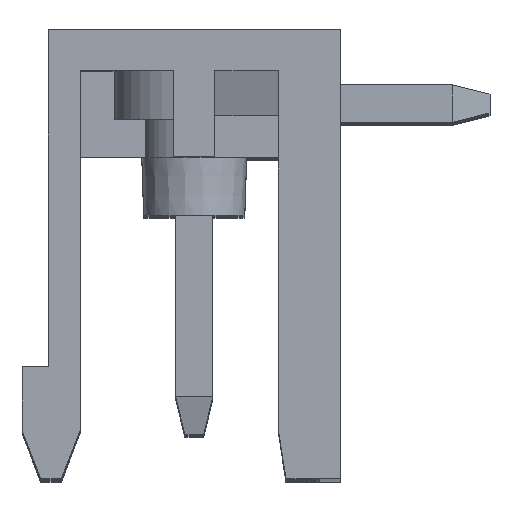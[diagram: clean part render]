
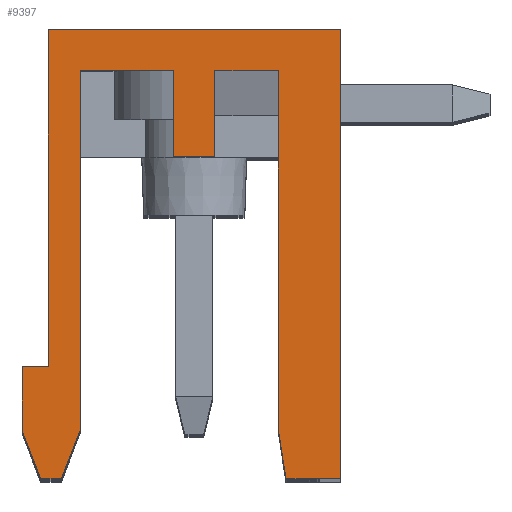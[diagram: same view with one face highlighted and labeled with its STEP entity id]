
A CAD part, top view. The second image highlights one B-rep face of the part: STEP entity #9397.
In plain terms, the highlighted planar face has unit normal (0, 0, 1).
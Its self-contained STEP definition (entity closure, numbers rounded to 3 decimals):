
#44 = EDGE_CURVE ( 'NONE', #20407, #19337, #2630, .T. ) ;
#166 = DIRECTION ( 'NONE',  ( 0., -1., 0. ) ) ;
#771 = DIRECTION ( 'NONE',  ( 1., 0., 0. ) ) ;
#974 = DIRECTION ( 'NONE',  ( 0.152, -0.988, 0. ) ) ;
#1130 = LINE ( 'NONE', #8802, #10423 ) ;
#1148 = VECTOR ( 'NONE', #12874, 1000. ) ;
#1167 = VERTEX_POINT ( 'NONE', #16137 ) ;
#1633 = LINE ( 'NONE', #22587, #1148 ) ;
#1900 = VERTEX_POINT ( 'NONE', #25020 ) ;
#2227 = ORIENTED_EDGE ( 'NONE', *, *, #22700, .T. ) ;
#2578 = CARTESIAN_POINT ( 'NONE',  ( -4.1, 0., 50.8 ) ) ;
#2630 = LINE ( 'NONE', #19866, #19105 ) ;
#2645 = VECTOR ( 'NONE', #23921, 1000. ) ;
#2707 = VERTEX_POINT ( 'NONE', #12960 ) ;
#3110 = VERTEX_POINT ( 'NONE', #11990 ) ;
#3185 = VERTEX_POINT ( 'NONE', #13661 ) ;
#3357 = EDGE_CURVE ( 'NONE', #9190, #3110, #24485, .T. ) ;
#3360 = LINE ( 'NONE', #24665, #21652 ) ;
#3409 = CARTESIAN_POINT ( 'NONE',  ( -0.55, 10.9, 50.8 ) ) ;
#3526 = ORIENTED_EDGE ( 'NONE', *, *, #5965, .T. ) ;
#3542 = CARTESIAN_POINT ( 'NONE',  ( -0.55, 8.6, 50.8 ) ) ;
#3710 = CARTESIAN_POINT ( 'NONE',  ( 3.9, 12., 50.8 ) ) ;
#3715 = EDGE_LOOP ( 'NONE', ( #23570, #10519, #18700, #18980, #17585, #23997, #5293, #15336, #21354, #7024, #2227, #14083, #10372, #3526, #8929, #10436, #21485 ) ) ;
#3719 = EDGE_CURVE ( 'NONE', #3185, #9190, #20252, .T. ) ;
#3835 = EDGE_CURVE ( 'NONE', #13893, #9394, #15136, .T. ) ;
#4110 = VECTOR ( 'NONE', #12875, 1000. ) ;
#4214 = VECTOR ( 'NONE', #13578, 1000. ) ;
#4631 = PLANE ( 'NONE',  #6697 ) ;
#4753 = DIRECTION ( 'NONE',  ( 1., 0., 0. ) ) ;
#5293 = ORIENTED_EDGE ( 'NONE', *, *, #15634, .T. ) ;
#5306 = CARTESIAN_POINT ( 'NONE',  ( -3.05, 10.9, 50.8 ) ) ;
#5332 = VECTOR ( 'NONE', #974, 1000. ) ;
#5660 = VERTEX_POINT ( 'NONE', #3542 ) ;
#5926 = LINE ( 'NONE', #17784, #4214 ) ;
#5965 = EDGE_CURVE ( 'NONE', #2707, #1167, #12316, .T. ) ;
#6196 = VERTEX_POINT ( 'NONE', #19331 ) ;
#6230 = EDGE_CURVE ( 'NONE', #23215, #5660, #5926, .T. ) ;
#6342 = EDGE_CURVE ( 'NONE', #21531, #1900, #22127, .T. ) ;
#6697 = AXIS2_PLACEMENT_3D ( 'NONE', #12395, #22110, #4753 ) ;
#6794 = CARTESIAN_POINT ( 'NONE',  ( -3.9, 3., 50.8 ) ) ;
#6930 = DIRECTION ( 'NONE',  ( 0., -1., 0. ) ) ;
#7013 = CARTESIAN_POINT ( 'NONE',  ( 2.45, 0., 50.8 ) ) ;
#7024 = ORIENTED_EDGE ( 'NONE', *, *, #8855, .F. ) ;
#7610 = EDGE_CURVE ( 'NONE', #23215, #2707, #3360, .T. ) ;
#8017 = VECTOR ( 'NONE', #12441, 1000. ) ;
#8745 = CARTESIAN_POINT ( 'NONE',  ( 0.55, 10.9, 50.8 ) ) ;
#8802 = CARTESIAN_POINT ( 'NONE',  ( -3.05, 1.3, 50.8 ) ) ;
#8855 = EDGE_CURVE ( 'NONE', #17668, #21531, #21767, .T. ) ;
#8921 = DIRECTION ( 'NONE',  ( -0.359, -0.933, 0. ) ) ;
#8929 = ORIENTED_EDGE ( 'NONE', *, *, #12482, .T. ) ;
#9190 = VERTEX_POINT ( 'NONE', #17276 ) ;
#9394 = VERTEX_POINT ( 'NONE', #6794 ) ;
#9397 = ADVANCED_FACE ( 'NONE', ( #20444 ), #4631, .T. ) ;
#9993 = LINE ( 'NONE', #21745, #16821 ) ;
#10192 = CARTESIAN_POINT ( 'NONE',  ( 3.9, 0., 50.8 ) ) ;
#10372 = ORIENTED_EDGE ( 'NONE', *, *, #7610, .T. ) ;
#10423 = VECTOR ( 'NONE', #8921, 1000. ) ;
#10436 = ORIENTED_EDGE ( 'NONE', *, *, #3719, .T. ) ;
#10519 = ORIENTED_EDGE ( 'NONE', *, *, #22019, .T. ) ;
#10948 = EDGE_CURVE ( 'NONE', #1900, #6196, #1130, .T. ) ;
#11026 = VECTOR ( 'NONE', #18851, 1000. ) ;
#11141 = VECTOR ( 'NONE', #24306, 1000. ) ;
#11990 = CARTESIAN_POINT ( 'NONE',  ( 3.9, 0., 50.8 ) ) ;
#12123 = CARTESIAN_POINT ( 'NONE',  ( -4.6, 1.3, 50.8 ) ) ;
#12153 = CARTESIAN_POINT ( 'NONE',  ( -3.05, 10.9, 50.8 ) ) ;
#12300 = CARTESIAN_POINT ( 'NONE',  ( -0.55, 10.9, 50.8 ) ) ;
#12316 = LINE ( 'NONE', #8745, #11141 ) ;
#12395 = CARTESIAN_POINT ( 'NONE',  ( -10.2, 16.267, 50.8 ) ) ;
#12441 = DIRECTION ( 'NONE',  ( 0., -1., 0. ) ) ;
#12482 = EDGE_CURVE ( 'NONE', #1167, #3185, #16405, .T. ) ;
#12713 = CARTESIAN_POINT ( 'NONE',  ( 2.25, 1.3, 50.8 ) ) ;
#12874 = DIRECTION ( 'NONE',  ( -1., 0., 0. ) ) ;
#12875 = DIRECTION ( 'NONE',  ( 1., 0., 0. ) ) ;
#12960 = CARTESIAN_POINT ( 'NONE',  ( 0.55, 10.9, 50.8 ) ) ;
#13175 = VECTOR ( 'NONE', #6930, 1000. ) ;
#13319 = EDGE_CURVE ( 'NONE', #3110, #23063, #14648, .T. ) ;
#13389 = LINE ( 'NONE', #3710, #16380 ) ;
#13578 = DIRECTION ( 'NONE',  ( -1., 0., 0. ) ) ;
#13661 = CARTESIAN_POINT ( 'NONE',  ( 2.25, 1.3, 50.8 ) ) ;
#13893 = VERTEX_POINT ( 'NONE', #22667 ) ;
#14083 = ORIENTED_EDGE ( 'NONE', *, *, #6230, .F. ) ;
#14648 = LINE ( 'NONE', #10192, #15389 ) ;
#15083 = EDGE_CURVE ( 'NONE', #16243, #19337, #18494, .T. ) ;
#15136 = LINE ( 'NONE', #17049, #11026 ) ;
#15221 = DIRECTION ( 'NONE',  ( 0., 1., 0. ) ) ;
#15336 = ORIENTED_EDGE ( 'NONE', *, *, #10948, .F. ) ;
#15389 = VECTOR ( 'NONE', #16313, 1000. ) ;
#15634 = EDGE_CURVE ( 'NONE', #16243, #6196, #20438, .T. ) ;
#15922 = CARTESIAN_POINT ( 'NONE',  ( -4.1, 0., 50.8 ) ) ;
#16126 = EDGE_CURVE ( 'NONE', #9394, #20407, #1633, .T. ) ;
#16137 = CARTESIAN_POINT ( 'NONE',  ( 2.25, 10.9, 50.8 ) ) ;
#16243 = VERTEX_POINT ( 'NONE', #15922 ) ;
#16313 = DIRECTION ( 'NONE',  ( 0., 1., 0. ) ) ;
#16380 = VECTOR ( 'NONE', #19282, 1000. ) ;
#16405 = LINE ( 'NONE', #22275, #8017 ) ;
#16821 = VECTOR ( 'NONE', #166, 1000. ) ;
#17049 = CARTESIAN_POINT ( 'NONE',  ( -3.9, 12., 50.8 ) ) ;
#17276 = CARTESIAN_POINT ( 'NONE',  ( 2.45, 0., 50.8 ) ) ;
#17585 = ORIENTED_EDGE ( 'NONE', *, *, #44, .T. ) ;
#17668 = VERTEX_POINT ( 'NONE', #3409 ) ;
#17784 = CARTESIAN_POINT ( 'NONE',  ( 0.55, 8.6, 50.8 ) ) ;
#18247 = VECTOR ( 'NONE', #20401, 1000. ) ;
#18494 = LINE ( 'NONE', #24103, #18247 ) ;
#18700 = ORIENTED_EDGE ( 'NONE', *, *, #3835, .T. ) ;
#18851 = DIRECTION ( 'NONE',  ( 0., -1., 0. ) ) ;
#18892 = CARTESIAN_POINT ( 'NONE',  ( 3.9, 12., 50.8 ) ) ;
#18980 = ORIENTED_EDGE ( 'NONE', *, *, #16126, .T. ) ;
#19105 = VECTOR ( 'NONE', #21791, 1000. ) ;
#19282 = DIRECTION ( 'NONE',  ( -1., 0., 0. ) ) ;
#19331 = CARTESIAN_POINT ( 'NONE',  ( -3.55, 0., 50.8 ) ) ;
#19337 = VERTEX_POINT ( 'NONE', #12123 ) ;
#19866 = CARTESIAN_POINT ( 'NONE',  ( -4.6, 3., 50.8 ) ) ;
#20252 = LINE ( 'NONE', #12713, #5332 ) ;
#20401 = DIRECTION ( 'NONE',  ( -0.359, 0.933, 0. ) ) ;
#20407 = VERTEX_POINT ( 'NONE', #24912 ) ;
#20438 = LINE ( 'NONE', #2578, #21937 ) ;
#20444 = FACE_OUTER_BOUND ( 'NONE', #3715, .T. ) ;
#21354 = ORIENTED_EDGE ( 'NONE', *, *, #6342, .F. ) ;
#21485 = ORIENTED_EDGE ( 'NONE', *, *, #3357, .T. ) ;
#21531 = VERTEX_POINT ( 'NONE', #5306 ) ;
#21652 = VECTOR ( 'NONE', #15221, 1000. ) ;
#21745 = CARTESIAN_POINT ( 'NONE',  ( -0.55, 10.9, 50.8 ) ) ;
#21767 = LINE ( 'NONE', #12300, #2645 ) ;
#21791 = DIRECTION ( 'NONE',  ( 0., -1., 0. ) ) ;
#21937 = VECTOR ( 'NONE', #771, 1000. ) ;
#22019 = EDGE_CURVE ( 'NONE', #23063, #13893, #13389, .T. ) ;
#22110 = DIRECTION ( 'NONE',  ( 0., 0., 1. ) ) ;
#22127 = LINE ( 'NONE', #12153, #13175 ) ;
#22275 = CARTESIAN_POINT ( 'NONE',  ( 2.25, 10.9, 50.8 ) ) ;
#22587 = CARTESIAN_POINT ( 'NONE',  ( -3.9, 3., 50.8 ) ) ;
#22667 = CARTESIAN_POINT ( 'NONE',  ( -3.9, 12., 50.8 ) ) ;
#22700 = EDGE_CURVE ( 'NONE', #17668, #5660, #9993, .T. ) ;
#23063 = VERTEX_POINT ( 'NONE', #18892 ) ;
#23215 = VERTEX_POINT ( 'NONE', #23470 ) ;
#23470 = CARTESIAN_POINT ( 'NONE',  ( 0.55, 8.6, 50.8 ) ) ;
#23570 = ORIENTED_EDGE ( 'NONE', *, *, #13319, .T. ) ;
#23921 = DIRECTION ( 'NONE',  ( -1., 0., 0. ) ) ;
#23997 = ORIENTED_EDGE ( 'NONE', *, *, #15083, .F. ) ;
#24103 = CARTESIAN_POINT ( 'NONE',  ( -4.1, 0., 50.8 ) ) ;
#24306 = DIRECTION ( 'NONE',  ( 1., 0., 0. ) ) ;
#24485 = LINE ( 'NONE', #7013, #4110 ) ;
#24665 = CARTESIAN_POINT ( 'NONE',  ( 0.55, 8.6, 50.8 ) ) ;
#24912 = CARTESIAN_POINT ( 'NONE',  ( -4.6, 3., 50.8 ) ) ;
#25020 = CARTESIAN_POINT ( 'NONE',  ( -3.05, 1.3, 50.8 ) ) ;
